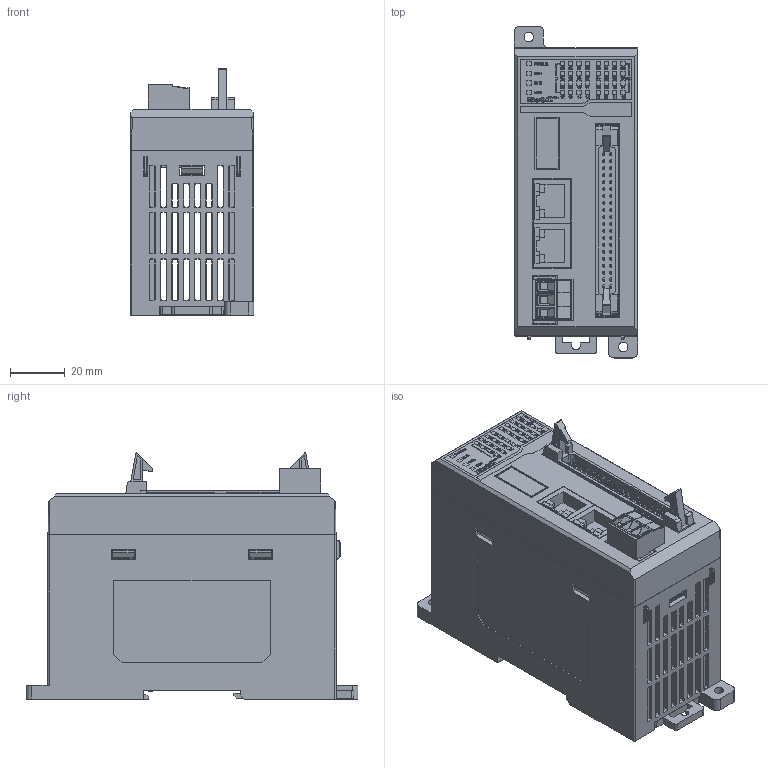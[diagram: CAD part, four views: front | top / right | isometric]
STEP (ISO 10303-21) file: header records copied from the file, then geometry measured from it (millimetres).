
FILE_DESCRIPTION((''),'2;1');
FILE_NAME('RXEC_ASM','2023-07-21T14:53:11',('Lenovo'),(''),'CREO PARAMETRIC BY PTC INC, 2020033','CREO PARAMETRIC BY PTC INC, 2020033','');
FILE_SCHEMA(('CONFIG_CONTROL_DESIGN'));
Products named in the file (21): BASE; COVER; PCB-M-01; DIANYUANCHAZUO; RJ45-HR913550A; ERD10X10; CBT-0810XXF-52-20PIN; WF12506-03200; PCB-M-01_ASM; PCB-M-02; EH1-R-XX-002; 254DFCN; PCB-M-02_ASM; PCB-LED; LED; CBT-0810XXM-52-20PIN; PCB-LED_ASM; KAKOU-105; DENGGAI; 00; RXEC_ASM
Assembly tree (57 placements, depth 3):
  RXEC_ASM
    BASE
    COVER
    PCB-M-01_ASM
      PCB-M-01
      DIANYUANCHAZUO
      RJ45-HR913550A  x2
      ERD10X10  x2
      CBT-0810XXF-52-20PIN
      WF12506-03200
    PCB-M-02_ASM
      PCB-M-02
      EH1-R-XX-002
      254DFCN
    PCB-LED_ASM
      PCB-LED
      LED  x36
      CBT-0810XXM-52-20PIN
    KAKOU-105
    DENGGAI
    00
Bounding box: 45 x 121 x 89.74 mm (x, y, z)
Volume: 103867.3 mm3; surface area: 119775.8 mm2
Topology: 62 solids, 62 shells, 8233 faces, 22124 edges, 14482 vertices
Faces by surface type: plane 6270, extrusion 1040, cylinder 648, bspline 182, cone 53, torus 28, sphere 12
Entity records: 236949 total; most frequent: CARTESIAN_POINT 56519, ORIENTED_EDGE 39362, DIRECTION 31944, EDGE_CURVE 19681, VECTOR 16814, LINE 15774, VERTEX_POINT 12860, EDGE_LOOP 8183
